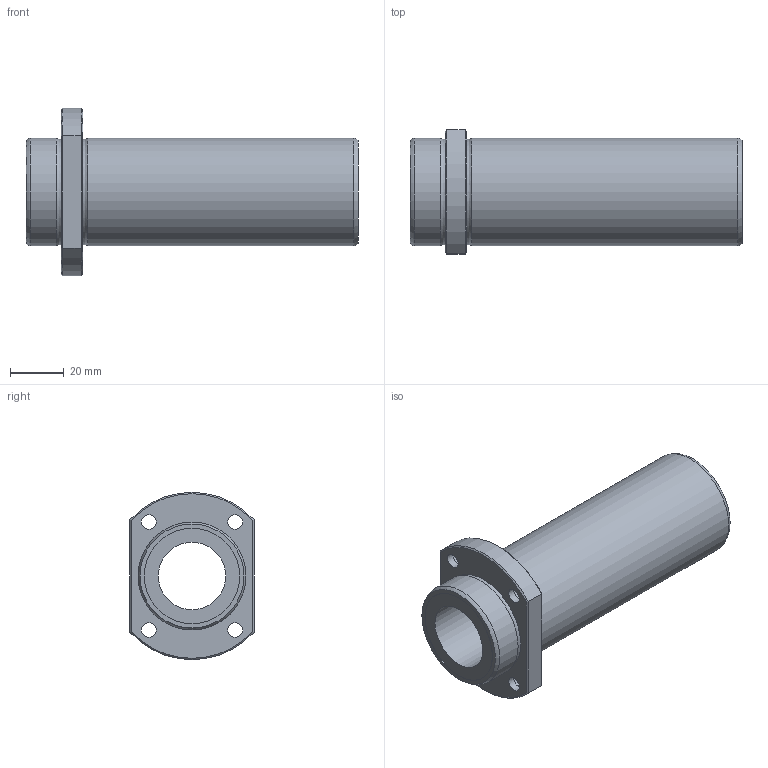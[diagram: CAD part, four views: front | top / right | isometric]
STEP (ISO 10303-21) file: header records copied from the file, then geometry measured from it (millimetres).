
FILE_DESCRIPTION((''),'2;1');
FILE_NAME('D:\製品 (図面)\カタログ用3D\メンテナンスフリー関連\STEP形式\LFDTB-MF\LFDTB25MF.stp','2010-06-01T15:47:21',('Tsuchiya'),(''),'Autodesk Inventor 10','Autodesk Inventor 10','');
FILE_SCHEMA(('AUTOMOTIVE_DESIGN { 1 0 10303 214 1 1 1 1 }'));
Length unit declared in the file: millimetre
Products named in the file (1): LFDTB25MF
Bounding box: 123 x 46 x 62 mm (x, y, z)
Volume: 102599.7 mm3; surface area: 30229.3 mm2
Topology: 1 solids, 1 shells, 39 faces, 75 edges, 46 vertices
Faces by surface type: bspline 14, plane 12, cylinder 7, cone 4, torus 2
Full cylindrical faces by diameter (mm): 25 x1, 35.3 x2, 40 x2
Entity records: 1177 total; most frequent: CARTESIAN_POINT 440, DIRECTION 140, ORIENTED_EDGE 116, EDGE_LOOP 74, AXIS2_PLACEMENT_3D 64, EDGE_CURVE 58, VERTEX_POINT 46, FACE_OUTER_BOUND 39
